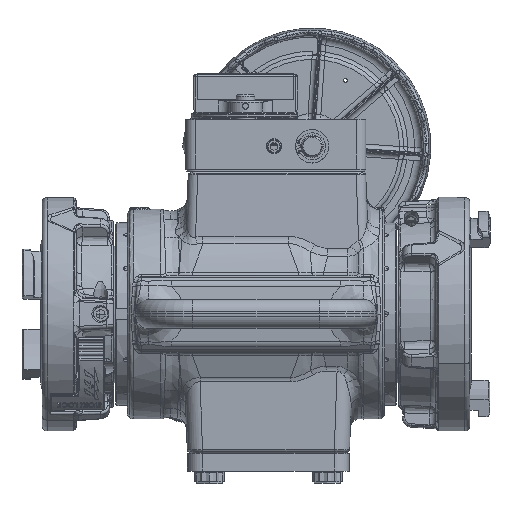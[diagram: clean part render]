
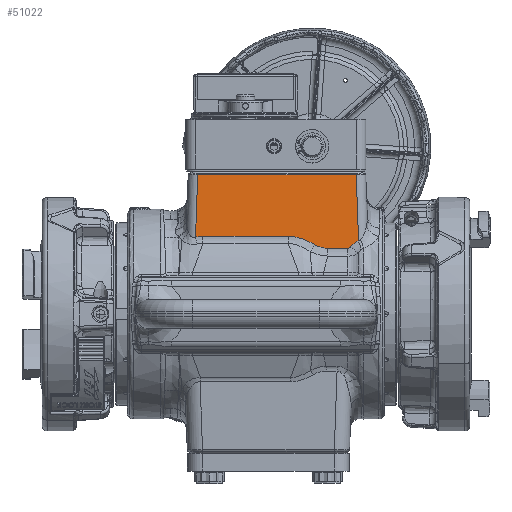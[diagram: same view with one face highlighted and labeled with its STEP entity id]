
A CAD part, top view. The second image highlights one B-rep face of the part: STEP entity #51022.
In plain terms, the highlighted planar face has unit normal (0, 0.035, 0.999).
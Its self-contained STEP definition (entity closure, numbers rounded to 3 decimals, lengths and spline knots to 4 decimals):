
#15035 = AXIS2_PLACEMENT_3D ( 'NONE', #129352, #129368, #129370 ) ;
#27037 = LINE ( 'NONE', #98228, #27039 ) ;
#27039 = VECTOR ( 'NONE', #98233, 39.3701 ) ;
#27050 = LINE ( 'NONE', #98309, #27060 ) ;
#27054 = LINE ( 'NONE', #98286, #27056 ) ;
#27056 = VECTOR ( 'NONE', #98287, 39.3701 ) ;
#27060 = VECTOR ( 'NONE', #98310, 39.3701 ) ;
#31247 = B_SPLINE_CURVE_WITH_KNOTS ( 'NONE', 3,
 ( #139857, #139856, #139867, #139869 ),
 .UNSPECIFIED., .F., .F.,
 ( 4, 4 ),
 ( 0., 0.005 ),
 .UNSPECIFIED. ) ;
#31249 = B_SPLINE_CURVE_WITH_KNOTS ( 'NONE', 3,
 ( #139885, #139883, #139893, #139895, #139896, #139898, #139900, #139902, #139904, #139906, #139908, #139910 ),
 .UNSPECIFIED., .F., .F.,
 ( 4, 2, 2, 2, 2, 4 ),
 ( 0., 0.0046, 0.007, 0.0093, 0.0139, 0.0186 ),
 .UNSPECIFIED. ) ;
#31251 = B_SPLINE_CURVE_WITH_KNOTS ( 'NONE', 3,
 ( #142800, #142808, #142810, #142812, #142813, #142815 ),
 .UNSPECIFIED., .F., .F.,
 ( 4, 2, 4 ),
 ( 0., 0.0046, 0.0092 ),
 .UNSPECIFIED. ) ;
#31256 = B_SPLINE_CURVE_WITH_KNOTS ( 'NONE', 3,
 ( #142829, #142827, #142837, #142839, #142841, #142842, #142844, #142846, #142848, #142849 ),
 .UNSPECIFIED., .F., .F.,
 ( 4, 2, 2, 2, 4 ),
 ( 0., 0.0005, 0.001, 0.0015, 0.0021 ),
 .UNSPECIFIED. ) ;
#31259 = B_SPLINE_CURVE_WITH_KNOTS ( 'NONE', 3,
 ( #142854, #142852, #142862, #142864, #142866, #142867, #142869, #142871 ),
 .UNSPECIFIED., .F., .F.,
 ( 4, 2, 2, 4 ),
 ( 0., 0.0017, 0.0034, 0.0067 ),
 .UNSPECIFIED. ) ;
#31445 = FACE_OUTER_BOUND ( 'NONE', #156691, .T. ) ;
#51022 = ADVANCED_FACE ( 'NONE', ( #31445 ), #129363, .T. ) ;
#82313 = VERTEX_POINT ( 'NONE', #178484 ) ;
#82318 = VERTEX_POINT ( 'NONE', #178498 ) ;
#82353 = VERTEX_POINT ( 'NONE', #178594 ) ;
#82354 = VERTEX_POINT ( 'NONE', #178597 ) ;
#82355 = VERTEX_POINT ( 'NONE', #178600 ) ;
#82356 = VERTEX_POINT ( 'NONE', #178603 ) ;
#82357 = VERTEX_POINT ( 'NONE', #178605 ) ;
#82358 = VERTEX_POINT ( 'NONE', #178608 ) ;
#82359 = VERTEX_POINT ( 'NONE', #178611 ) ;
#82371 = VERTEX_POINT ( 'NONE', #178644 ) ;
#98228 = CARTESIAN_POINT ( 'NONE',  ( -1.2526, 3.6542, 2.0033 ) ) ;
#98233 = DIRECTION ( 'NONE',  ( -1., 0., 0. ) ) ;
#98286 = CARTESIAN_POINT ( 'NONE',  ( 2.8948, 3.9033, 1.9946 ) ) ;
#98287 = DIRECTION ( 'NONE',  ( -0.035, 0.999, -0.035 ) ) ;
#98309 = CARTESIAN_POINT ( 'NONE',  ( -1.2505, 3.7413, 2.0003 ) ) ;
#98310 = DIRECTION ( 'NONE',  ( -0.035, -0.999, 0.035 ) ) ;
#116367 = EDGE_CURVE ( 'NONE', #82313, #82318, #27037, .T. ) ;
#116387 = EDGE_CURVE ( 'NONE', #82353, #82313, #27054, .T. ) ;
#116394 = EDGE_CURVE ( 'NONE', #82318, #82371, #27050, .T. ) ;
#116900 = EDGE_CURVE ( 'NONE', #82371, #82359, #31247, .T. ) ;
#116902 = EDGE_CURVE ( 'NONE', #82359, #82358, #138150, .T. ) ;
#116904 = EDGE_CURVE ( 'NONE', #82358, #82357, #31249, .T. ) ;
#116906 = EDGE_CURVE ( 'NONE', #82357, #82356, #31251, .T. ) ;
#116908 = EDGE_CURVE ( 'NONE', #82356, #82355, #138131, .T. ) ;
#116910 = EDGE_CURVE ( 'NONE', #82355, #82354, #31256, .T. ) ;
#116912 = EDGE_CURVE ( 'NONE', #82354, #82353, #31259, .T. ) ;
#129352 = CARTESIAN_POINT ( 'NONE',  ( -1.5, 3.75, 2. ) ) ;
#129363 = PLANE ( 'NONE',  #15035 ) ;
#129368 = DIRECTION ( 'NONE',  ( 0., 0.035, 0.999 ) ) ;
#129370 = DIRECTION ( 'NONE',  ( 0., -0.999, 0.035 ) ) ;
#138131 = LINE ( 'NONE', #139912, #138160 ) ;
#138150 = LINE ( 'NONE', #139875, #138155 ) ;
#138155 = VECTOR ( 'NONE', #139788, 39.3701 ) ;
#138160 = VECTOR ( 'NONE', #139873, 39.3701 ) ;
#139788 = DIRECTION ( 'NONE',  ( 1., 0., 0. ) ) ;
#139856 = CARTESIAN_POINT ( 'NONE',  ( -1.2463, 2.0308, 2.06 ) ) ;
#139857 = CARTESIAN_POINT ( 'NONE',  ( -1.3106, 2.0189, 2.0604 ) ) ;
#139867 = CARTESIAN_POINT ( 'NONE',  ( -1.1815, 2.0372, 2.0598 ) ) ;
#139869 = CARTESIAN_POINT ( 'NONE',  ( -1.116, 2.0372, 2.0598 ) ) ;
#139873 = DIRECTION ( 'NONE',  ( 1., 0., 0. ) ) ;
#139875 = CARTESIAN_POINT ( 'NONE',  ( 1.0887, 2.0372, 2.0598 ) ) ;
#139883 = CARTESIAN_POINT ( 'NONE',  ( 1.1775, 2.0372, 2.0598 ) ) ;
#139885 = CARTESIAN_POINT ( 'NONE',  ( 1.116, 2.0372, 2.0598 ) ) ;
#139893 = CARTESIAN_POINT ( 'NONE',  ( 1.2383, 2.0315, 2.06 ) ) ;
#139895 = CARTESIAN_POINT ( 'NONE',  ( 1.3286, 2.0159, 2.0606 ) ) ;
#139896 = CARTESIAN_POINT ( 'NONE',  ( 1.3585, 2.0095, 2.0608 ) ) ;
#139898 = CARTESIAN_POINT ( 'NONE',  ( 1.4181, 1.9944, 2.0613 ) ) ;
#139900 = CARTESIAN_POINT ( 'NONE',  ( 1.4474, 1.9859, 2.0616 ) ) ;
#139902 = CARTESIAN_POINT ( 'NONE',  ( 1.5342, 1.9574, 2.0626 ) ) ;
#139904 = CARTESIAN_POINT ( 'NONE',  ( 1.5904, 1.9347, 2.0634 ) ) ;
#139906 = CARTESIAN_POINT ( 'NONE',  ( 1.7004, 1.8832, 2.0652 ) ) ;
#139908 = CARTESIAN_POINT ( 'NONE',  ( 1.754, 1.8544, 2.0662 ) ) ;
#139910 = CARTESIAN_POINT ( 'NONE',  ( 1.8066, 1.823, 2.0673 ) ) ;
#139912 = CARTESIAN_POINT ( 'NONE',  ( 2.6854, 1.7246, 2.0707 ) ) ;
#142800 = CARTESIAN_POINT ( 'NONE',  ( 1.8066, 1.823, 2.0673 ) ) ;
#142808 = CARTESIAN_POINT ( 'NONE',  ( 1.8589, 1.7917, 2.0684 ) ) ;
#142810 = CARTESIAN_POINT ( 'NONE',  ( 1.9141, 1.767, 2.0692 ) ) ;
#142812 = CARTESIAN_POINT ( 'NONE',  ( 2.0313, 1.733, 2.0704 ) ) ;
#142813 = CARTESIAN_POINT ( 'NONE',  ( 2.0912, 1.7246, 2.0707 ) ) ;
#142815 = CARTESIAN_POINT ( 'NONE',  ( 2.1523, 1.7246, 2.0707 ) ) ;
#142827 = CARTESIAN_POINT ( 'NONE',  ( 2.6923, 1.7246, 2.0707 ) ) ;
#142829 = CARTESIAN_POINT ( 'NONE',  ( 2.6854, 1.7246, 2.0707 ) ) ;
#142837 = CARTESIAN_POINT ( 'NONE',  ( 2.699, 1.7256, 2.0707 ) ) ;
#142839 = CARTESIAN_POINT ( 'NONE',  ( 2.7121, 1.7295, 2.0706 ) ) ;
#142841 = CARTESIAN_POINT ( 'NONE',  ( 2.7182, 1.7322, 2.0705 ) ) ;
#142842 = CARTESIAN_POINT ( 'NONE',  ( 2.7298, 1.7391, 2.0702 ) ) ;
#142844 = CARTESIAN_POINT ( 'NONE',  ( 2.7353, 1.7432, 2.0701 ) ) ;
#142846 = CARTESIAN_POINT ( 'NONE',  ( 2.7455, 1.7521, 2.0698 ) ) ;
#142848 = CARTESIAN_POINT ( 'NONE',  ( 2.7501, 1.7569, 2.0696 ) ) ;
#142849 = CARTESIAN_POINT ( 'NONE',  ( 2.7545, 1.7621, 2.0694 ) ) ;
#142852 = CARTESIAN_POINT ( 'NONE',  ( 2.7688, 1.779, 2.0688 ) ) ;
#142854 = CARTESIAN_POINT ( 'NONE',  ( 2.7545, 1.7621, 2.0694 ) ) ;
#142862 = CARTESIAN_POINT ( 'NONE',  ( 2.7838, 1.7952, 2.0683 ) ) ;
#142864 = CARTESIAN_POINT ( 'NONE',  ( 2.8156, 1.8257, 2.0672 ) ) ;
#142866 = CARTESIAN_POINT ( 'NONE',  ( 2.8324, 1.8401, 2.0667 ) ) ;
#142867 = CARTESIAN_POINT ( 'NONE',  ( 2.8848, 1.8796, 2.0653 ) ) ;
#142869 = CARTESIAN_POINT ( 'NONE',  ( 2.9226, 1.9013, 2.0646 ) ) ;
#142871 = CARTESIAN_POINT ( 'NONE',  ( 2.9642, 1.9169, 2.064 ) ) ;
#156412 = ORIENTED_EDGE ( 'NONE', *, *, #116387, .T. ) ;
#156415 = ORIENTED_EDGE ( 'NONE', *, *, #116367, .T. ) ;
#156417 = ORIENTED_EDGE ( 'NONE', *, *, #116394, .T. ) ;
#156419 = ORIENTED_EDGE ( 'NONE', *, *, #116900, .T. ) ;
#156421 = ORIENTED_EDGE ( 'NONE', *, *, #116902, .T. ) ;
#156423 = ORIENTED_EDGE ( 'NONE', *, *, #116904, .T. ) ;
#156425 = ORIENTED_EDGE ( 'NONE', *, *, #116906, .T. ) ;
#156428 = ORIENTED_EDGE ( 'NONE', *, *, #116908, .T. ) ;
#156430 = ORIENTED_EDGE ( 'NONE', *, *, #116910, .T. ) ;
#156432 = ORIENTED_EDGE ( 'NONE', *, *, #116912, .T. ) ;
#156691 = EDGE_LOOP ( 'NONE', ( #156412, #156415, #156417, #156419, #156421, #156423, #156425, #156428, #156430, #156432 ) ) ;
#178484 = CARTESIAN_POINT ( 'NONE',  ( 2.9035, 3.6542, 2.0033 ) ) ;
#178498 = CARTESIAN_POINT ( 'NONE',  ( -1.2535, 3.6542, 2.0033 ) ) ;
#178594 = CARTESIAN_POINT ( 'NONE',  ( 2.9642, 1.9169, 2.064 ) ) ;
#178597 = CARTESIAN_POINT ( 'NONE',  ( 2.7545, 1.7621, 2.0694 ) ) ;
#178600 = CARTESIAN_POINT ( 'NONE',  ( 2.6854, 1.7246, 2.0707 ) ) ;
#178603 = CARTESIAN_POINT ( 'NONE',  ( 2.1523, 1.7246, 2.0707 ) ) ;
#178605 = CARTESIAN_POINT ( 'NONE',  ( 1.8066, 1.823, 2.0673 ) ) ;
#178608 = CARTESIAN_POINT ( 'NONE',  ( 1.116, 2.0372, 2.0598 ) ) ;
#178611 = CARTESIAN_POINT ( 'NONE',  ( -1.116, 2.0372, 2.0598 ) ) ;
#178644 = CARTESIAN_POINT ( 'NONE',  ( -1.3106, 2.0189, 2.0604 ) ) ;
